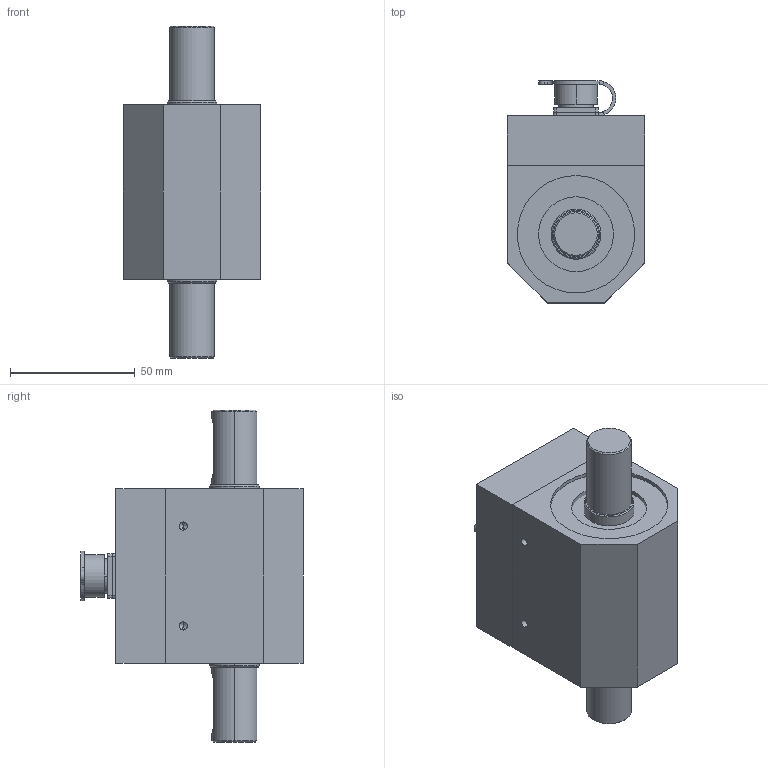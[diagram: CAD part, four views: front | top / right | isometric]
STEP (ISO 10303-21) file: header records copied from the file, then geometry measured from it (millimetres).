
FILE_DESCRIPTION (( 'STEP AP214' ), '1' );
FILE_NAME ('WTQ-2050A俋倛芞.STEP', '2020-12-02T01:20:06', ( '' ), ( '' ), 'SwSTEP 2.0', 'SolidWorks 2014', '' );
FILE_SCHEMA (( 'AUTOMOTIVE_DESIGN' ));
Length unit declared in the file: millimetre
Products named in the file (6): 瑤脣奻裔; 瑤脣-聾撻; WTQ-2050A俋褲; WTQ-2050A奻裔; WTQ-2050A粟俶粣; WTQ-2050A俋倛芞
Assembly tree (5 placements, depth 2):
  WTQ-2050A俋倛芞
    WTQ-2050A粟俶粣
    WTQ-2050A奻裔
    WTQ-2050A俋褲
    瑤脣-聾撻
    瑤脣奻裔
Bounding box: 55 x 89 x 133 mm (x, y, z)
Volume: 350077.2 mm3; surface area: 61339.6 mm2
Topology: 5 solids, 5 shells, 241 faces, 557 edges, 354 vertices
Faces by surface type: cylinder 140, plane 75, cone 26
Entity records: 7465 total; most frequent: CARTESIAN_POINT 1320, DIRECTION 1309, ORIENTED_EDGE 1082, EDGE_CURVE 541, AXIS2_PLACEMENT_3D 531, VERTEX_POINT 354, EDGE_LOOP 313, CIRCLE 282
